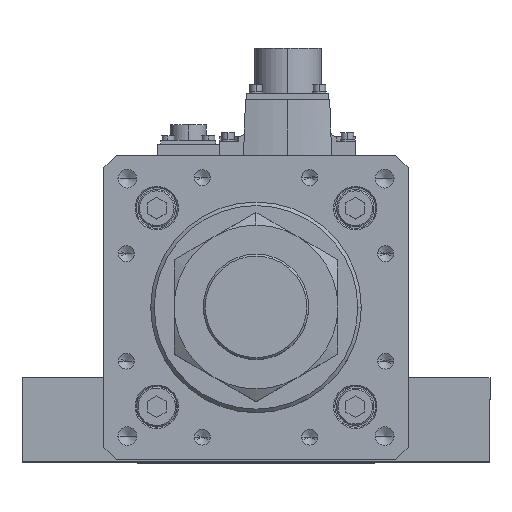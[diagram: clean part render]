
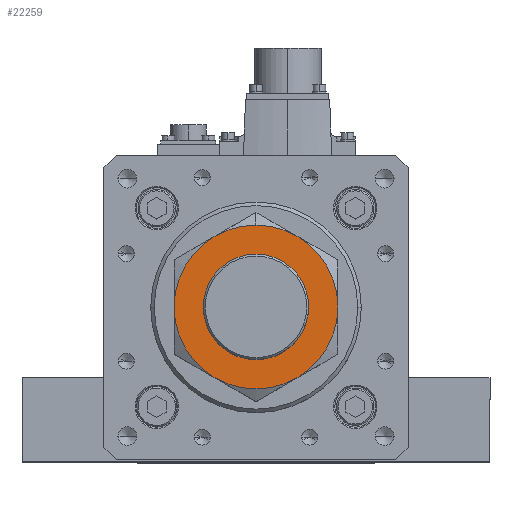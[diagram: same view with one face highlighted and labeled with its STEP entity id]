
A CAD part, top view. The second image highlights one B-rep face of the part: STEP entity #22259.
In plain terms, the highlighted planar face has unit normal (0, 0, 1).
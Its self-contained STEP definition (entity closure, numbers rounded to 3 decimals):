
#103 = EDGE_CURVE ( 'NONE', #37314, #16552, #283, .T. ) ;
#283 = CIRCLE ( 'NONE', #2315, 35. ) ;
#710 = CARTESIAN_POINT ( 'NONE',  ( 0., 0., 27. ) ) ;
#713 = DIRECTION ( 'NONE',  ( 0., 1., 0. ) ) ;
#1552 = CARTESIAN_POINT ( 'NONE',  ( 0., 35., 27. ) ) ;
#2218 = DIRECTION ( 'NONE',  ( 0., 0., 1. ) ) ;
#2315 = AXIS2_PLACEMENT_3D ( 'NONE', #31349, #27799, #12653 ) ;
#2471 = AXIS2_PLACEMENT_3D ( 'NONE', #11910, #33727, #8904 ) ;
#2697 = ORIENTED_EDGE ( 'NONE', *, *, #20561, .F. ) ;
#2895 = AXIS2_PLACEMENT_3D ( 'NONE', #18198, #2218, #26970 ) ;
#3012 = EDGE_LOOP ( 'NONE', ( #14601, #22900 ) ) ;
#3098 = CIRCLE ( 'NONE', #2471, 35. ) ;
#3147 = ORIENTED_EDGE ( 'NONE', *, *, #30591, .F. ) ;
#3757 = CIRCLE ( 'NONE', #20428, 35. ) ;
#4251 = CIRCLE ( 'NONE', #4508, 35. ) ;
#4343 = EDGE_CURVE ( 'NONE', #25947, #19930, #16577, .T. ) ;
#4508 = AXIS2_PLACEMENT_3D ( 'NONE', #32471, #23312, #26334 ) ;
#4727 = DIRECTION ( 'NONE',  ( 0., 0., -1. ) ) ;
#4728 = CIRCLE ( 'NONE', #35918, 35. ) ;
#7008 = CARTESIAN_POINT ( 'NONE',  ( 0., 0., 27. ) ) ;
#7136 = CIRCLE ( 'NONE', #2895, 22.5 ) ;
#8559 = ORIENTED_EDGE ( 'NONE', *, *, #103, .F. ) ;
#8904 = DIRECTION ( 'NONE',  ( 0., 1., 0. ) ) ;
#9602 = ORIENTED_EDGE ( 'NONE', *, *, #31760, .F. ) ;
#9709 = DIRECTION ( 'NONE',  ( 0., 0., 1. ) ) ;
#10853 = EDGE_CURVE ( 'NONE', #19930, #25947, #7136, .T. ) ;
#11018 = CARTESIAN_POINT ( 'NONE',  ( 17.5, -30.311, 27. ) ) ;
#11349 = CIRCLE ( 'NONE', #12501, 35. ) ;
#11611 = AXIS2_PLACEMENT_3D ( 'NONE', #22495, #9709, #22363 ) ;
#11910 = CARTESIAN_POINT ( 'NONE',  ( 0., 0., 27. ) ) ;
#11958 = EDGE_LOOP ( 'NONE', ( #35904, #2697, #8559, #9602, #28322, #3147, #37137 ) ) ;
#12501 = AXIS2_PLACEMENT_3D ( 'NONE', #710, #35238, #31629 ) ;
#12653 = DIRECTION ( 'NONE',  ( 0., 1., 0. ) ) ;
#13923 = FACE_OUTER_BOUND ( 'NONE', #11958, .T. ) ;
#14601 = ORIENTED_EDGE ( 'NONE', *, *, #4343, .F. ) ;
#15027 = VERTEX_POINT ( 'NONE', #11018 ) ;
#16125 = CARTESIAN_POINT ( 'NONE',  ( 22.5, 0., 27. ) ) ;
#16406 = CARTESIAN_POINT ( 'NONE',  ( -22.5, 0., 27. ) ) ;
#16552 = VERTEX_POINT ( 'NONE', #30847 ) ;
#16577 = CIRCLE ( 'NONE', #11611, 22.5 ) ;
#17059 = DIRECTION ( 'NONE',  ( 0., 1., 0. ) ) ;
#17184 = DIRECTION ( 'NONE',  ( 0., 0., -1. ) ) ;
#17278 = DIRECTION ( 'NONE',  ( 0., 1., 0. ) ) ;
#17730 = VERTEX_POINT ( 'NONE', #24992 ) ;
#18198 = CARTESIAN_POINT ( 'NONE',  ( 0., 0., 27. ) ) ;
#18880 = EDGE_CURVE ( 'NONE', #36406, #15027, #3757, .T. ) ;
#19141 = CIRCLE ( 'NONE', #39252, 35. ) ;
#19930 = VERTEX_POINT ( 'NONE', #16125 ) ;
#20428 = AXIS2_PLACEMENT_3D ( 'NONE', #36251, #4727, #17278 ) ;
#20561 = EDGE_CURVE ( 'NONE', #16552, #36406, #4251, .T. ) ;
#22259 = ADVANCED_FACE ( 'NONE', ( #13923, #38801 ), #39017, .T. ) ;
#22363 = DIRECTION ( 'NONE',  ( 1., 0., 0. ) ) ;
#22495 = CARTESIAN_POINT ( 'NONE',  ( 0., 0., 27. ) ) ;
#22900 = ORIENTED_EDGE ( 'NONE', *, *, #10853, .F. ) ;
#23057 = VERTEX_POINT ( 'NONE', #37443 ) ;
#23312 = DIRECTION ( 'NONE',  ( 0., 0., -1. ) ) ;
#23770 = CARTESIAN_POINT ( 'NONE',  ( 0., 0., 27. ) ) ;
#24992 = CARTESIAN_POINT ( 'NONE',  ( -35., 0., 27. ) ) ;
#24993 = AXIS2_PLACEMENT_3D ( 'NONE', #32630, #29361, #35620 ) ;
#25947 = VERTEX_POINT ( 'NONE', #16406 ) ;
#26334 = DIRECTION ( 'NONE',  ( 0., 1., 0. ) ) ;
#26970 = DIRECTION ( 'NONE',  ( 1., 0., 0. ) ) ;
#27799 = DIRECTION ( 'NONE',  ( 0., 0., -1. ) ) ;
#28322 = ORIENTED_EDGE ( 'NONE', *, *, #35154, .F. ) ;
#28898 = EDGE_CURVE ( 'NONE', #15027, #35315, #4728, .T. ) ;
#29361 = DIRECTION ( 'NONE',  ( 0., 0., 1. ) ) ;
#30591 = EDGE_CURVE ( 'NONE', #35315, #17730, #3098, .T. ) ;
#30847 = CARTESIAN_POINT ( 'NONE',  ( 17.5, 30.311, 27. ) ) ;
#31349 = CARTESIAN_POINT ( 'NONE',  ( 0., 0., 27. ) ) ;
#31629 = DIRECTION ( 'NONE',  ( 0., 1., 0. ) ) ;
#31760 = EDGE_CURVE ( 'NONE', #23057, #37314, #11349, .T. ) ;
#32471 = CARTESIAN_POINT ( 'NONE',  ( 0., 0., 27. ) ) ;
#32630 = CARTESIAN_POINT ( 'NONE',  ( 0., 0., 27. ) ) ;
#32998 = CARTESIAN_POINT ( 'NONE',  ( 35., 0., 27. ) ) ;
#33727 = DIRECTION ( 'NONE',  ( 0., 0., -1. ) ) ;
#35116 = DIRECTION ( 'NONE',  ( 0., 0., -1. ) ) ;
#35154 = EDGE_CURVE ( 'NONE', #17730, #23057, #19141, .T. ) ;
#35238 = DIRECTION ( 'NONE',  ( 0., 0., -1. ) ) ;
#35315 = VERTEX_POINT ( 'NONE', #36072 ) ;
#35620 = DIRECTION ( 'NONE',  ( 1., 0., 0. ) ) ;
#35904 = ORIENTED_EDGE ( 'NONE', *, *, #18880, .F. ) ;
#35918 = AXIS2_PLACEMENT_3D ( 'NONE', #23770, #17184, #17059 ) ;
#36072 = CARTESIAN_POINT ( 'NONE',  ( -17.5, -30.311, 27. ) ) ;
#36251 = CARTESIAN_POINT ( 'NONE',  ( 0., 0., 27. ) ) ;
#36406 = VERTEX_POINT ( 'NONE', #32998 ) ;
#37137 = ORIENTED_EDGE ( 'NONE', *, *, #28898, .F. ) ;
#37314 = VERTEX_POINT ( 'NONE', #1552 ) ;
#37443 = CARTESIAN_POINT ( 'NONE',  ( -17.5, 30.311, 27. ) ) ;
#38801 = FACE_BOUND ( 'NONE', #3012, .T. ) ;
#39017 = PLANE ( 'NONE',  #24993 ) ;
#39252 = AXIS2_PLACEMENT_3D ( 'NONE', #7008, #35116, #713 ) ;
